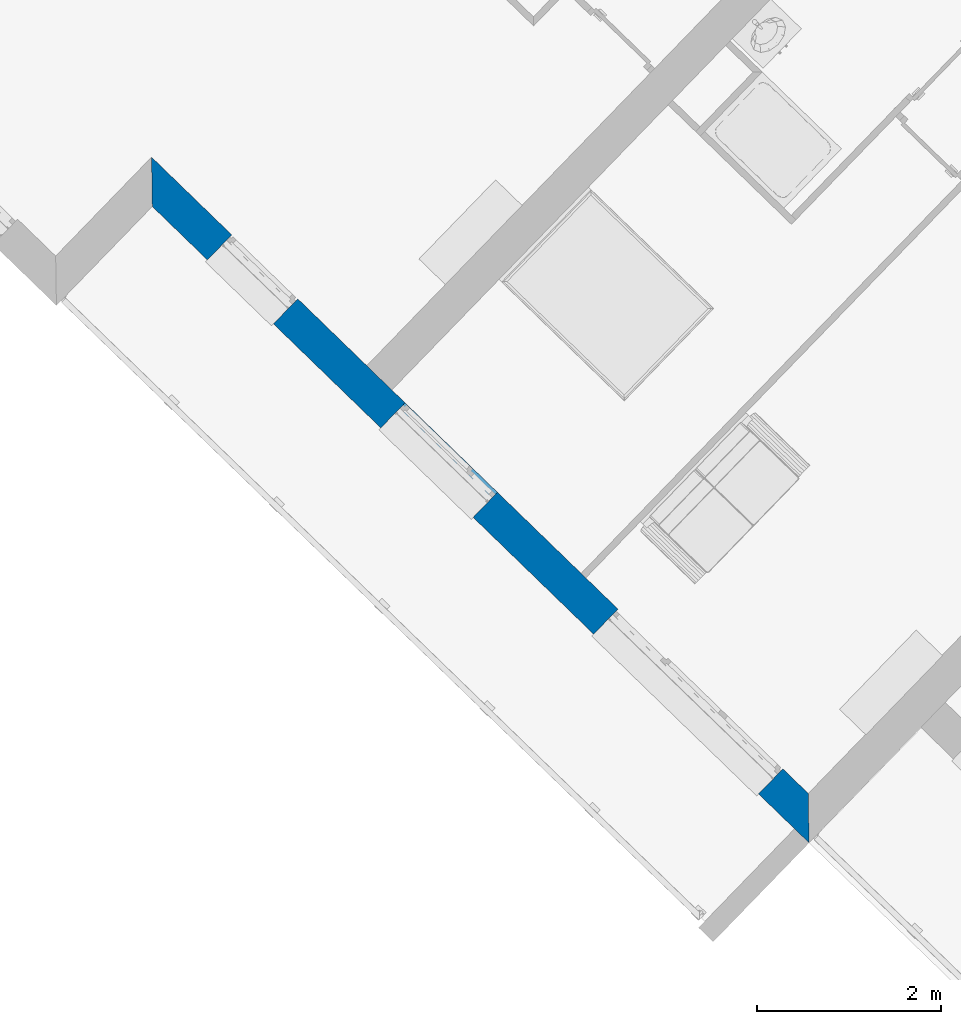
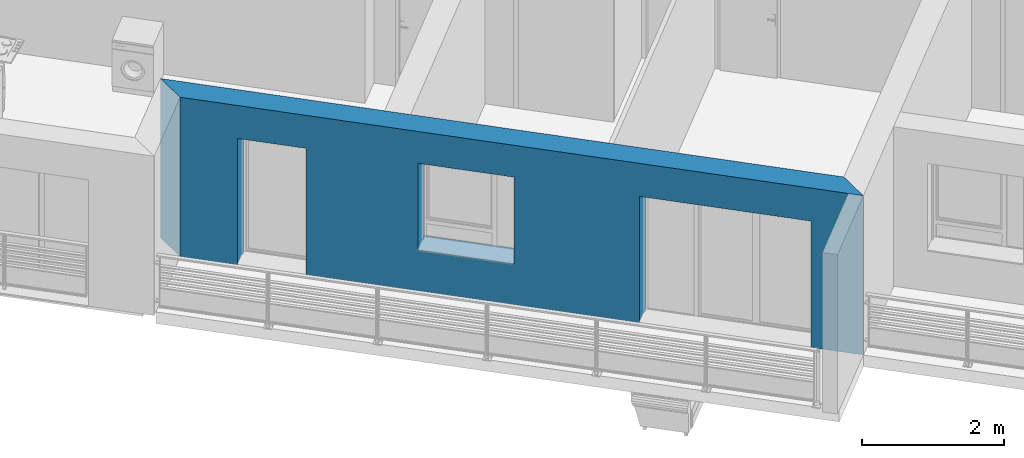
# One storey, part 8 of 121: 1 wall, 3 openings.
"""IFC2X3 building model written with IfcOpenShell, lengths in metres."""

from ifc_helpers import new_model, entity, si_unit, converted_unit, derived_unit, money_unit, direction, frame, origin_with_axes, place, context, subcontext, project, spatial, polyline, outline, extrude, faceted_brep, material, layer, layer_set, layer_usage, type_object, element, save


model = new_model("IFC2X3")

# Units and contexts
model_context = context("Model", 3, precision=1e-05, world=origin_with_axes(), true_north=direction((0.0, 1.0)))
body_context = subcontext(model_context, "Body", "Model", "MODEL_VIEW")
ifc_project = project(units=[si_unit("LENGTHUNIT", "METRE"), si_unit("AREAUNIT", "SQUARE_METRE"), si_unit("VOLUMEUNIT", "CUBIC_METRE"), converted_unit("PLANEANGLEUNIT", "DEGREE", entity("IfcPlaneAngleMeasure", 0.0174532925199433), si_unit("PLANEANGLEUNIT", "RADIAN"), dimensions=[0, 0, 0, 0, 0, 0, 0]), money_unit("CHF"), converted_unit("TIMEUNIT", "Year", entity("IfcTimeMeasure", 31557600.0), si_unit("TIMEUNIT", "SECOND"), dimensions=[0, 0, 1, 0, 0, 0, 0]), si_unit("MASSUNIT", "GRAM", prefix="KILO"), si_unit("THERMODYNAMICTEMPERATUREUNIT", "DEGREE_CELSIUS"), si_unit("LUMINOUSINTENSITYUNIT", "LUMEN"), si_unit("ENERGYUNIT", "JOULE", prefix="MEGA"), derived_unit("THERMALCONDUCTANCEUNIT", [(si_unit("POWERUNIT", "WATT"), 1), (si_unit("LENGTHUNIT", "METRE"), -1), (si_unit("THERMODYNAMICTEMPERATUREUNIT", "KELVIN"), -1)]), derived_unit("SPECIFICHEATCAPACITYUNIT", [(si_unit("ENERGYUNIT", "JOULE"), 1), (si_unit("MASSUNIT", "GRAM", prefix="KILO"), -1), (si_unit("THERMODYNAMICTEMPERATUREUNIT", "KELVIN"), -1)]), derived_unit("MASSDENSITYUNIT", [(si_unit("MASSUNIT", "GRAM", prefix="KILO"), 1), (si_unit("VOLUMEUNIT", "CUBIC_METRE"), -1)])], contexts=[model_context])

# Site, building, storey
site_placement = place(None, origin_with_axes())
site = spatial("IfcSite", under=ifc_project, at=site_placement, Name="Site", CompositionType="ELEMENT")
building_placement = place(site_placement, origin_with_axes())
building = spatial("IfcBuilding", under=site, at=building_placement, Name="Bâtiment", CompositionType="ELEMENT")
storey_placement = place(building_placement, frame((0.0, 0.0, 2.75), z_axis=(0.0, 0.0, 1.0), x_axis=(1.0, 0.0, 0.0)))
storey = spatial("IfcBuildingStorey", under=building, at=storey_placement, Name="Etage 1", CompositionType="ELEMENT", Elevation=2.75)

# Wall, openings
ifc_material_1 = material(Name="Parpaing 312445824")
ifc_layer_1 = layer(ifc_material_1, 0.22, ventilated="UNKNOWN")
ifc_material_2 = material(Name="Isolant styromousse 301821074")
ifc_layer_2 = layer(ifc_material_2, 0.16, ventilated="UNKNOWN")
ifc_layer_set = layer_set([ifc_layer_1, ifc_layer_2], Name="isol int 22+16 0836643197")
ifc_layer_usage = layer_usage(ifc_layer_set, "AXIS2", "NEGATIVE", 0.0)
wall_type = type_object("IfcWallType", Name="isol int 22+16 0836643197 380", PredefinedType="NOTDEFINED")
wall_placement = place(storey_placement, frame((9522.723727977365, -1071.439827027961, 57.7), z_axis=(0.0, 0.0, 1.0), x_axis=(-0.7181763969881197, 0.6958610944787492, 0.0)))
wall = element("IfcWallStandardCase", 1, at=wall_placement, inside=storey, type_object=wall_type, material=ifc_layer_usage, Name="Mur-115", context=body_context, shape_type="SweptSolid", body=[
    extrude(outline(polyline([(0.3799999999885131, -0.3800000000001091), (10.33768647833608, -0.3799999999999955), (9.957686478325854, 0.0), (0.0, 0.0), (0.3799999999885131, -0.3800000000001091)])), origin_with_axes(), (0.0, 0.0, 1.0), 2.75),
])
opening_1_placement = place(wall_placement, frame((5.7929670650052, 0.0, 0.7000000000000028), z_axis=(0.0, 0.0, 1.0), x_axis=(1.0, 0.0, 0.0)))
element("IfcOpeningElement", 2, at=opening_1_placement, cuts=wall, Name="Fen-045", context=body_context, shape_type="Brep", body=[
    faceted_brep([(0.6999999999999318, -0.4800000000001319, 1.5), (-0.6999999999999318, -0.4800000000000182, 1.5), (-0.7000000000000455, -5.357363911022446, 1.5), (0.6999999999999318, -5.357363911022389, 1.5), (0.6999999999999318, -0.4800000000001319, 1.700000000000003), (-0.6999999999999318, -0.4800000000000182, 1.700000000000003), (-0.6999999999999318, -0.3000000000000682, 1.5), (-0.6999999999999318, -0.3000000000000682, 0.0), (-0.7000000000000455, -5.357363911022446, 0.0), (0.6999999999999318, -5.357363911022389, 0.0), (0.6999999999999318, -0.3000000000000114, 1.5), (0.6999999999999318, -0.3000000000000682, 0.0), (0.6999999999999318, -0.2200000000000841, 1.5), (0.6999999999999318, -0.2200000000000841, 1.700000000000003), (-0.7000000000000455, -0.220000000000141, 1.700000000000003), (-0.7000000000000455, -0.220000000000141, 1.5), (-0.7000000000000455, 4.977363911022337, 1.5), (-0.7000000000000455, 4.977363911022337, 0.0), (0.6999999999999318, 4.97736391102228, 0.0), (0.6999999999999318, 4.97736391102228, 1.5)], [[[0, 1, 2, 3]], [[1, 0, 4, 5]], [[1, 6, 7, 8, 2]], [[2, 8, 9, 3]], [[10, 0, 3, 9, 11]], [[0, 10, 12, 13, 4]], [[14, 5, 4, 13]], [[6, 1, 5, 14, 15]], [[6, 15, 16, 17, 7]], [[7, 11, 9, 8]], [[12, 10, 11, 18, 19]], [[12, 15, 14, 13]], [[15, 12, 19, 16]], [[19, 18, 17, 16]], [[11, 7, 17, 18]]]),
])
opening_2_placement = place(wall_placement, frame((2.015639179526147, 0.0, 0.0), z_axis=(0.0, 0.0, 1.0), x_axis=(1.0, 0.0, 0.0)))
element("IfcOpeningElement", 3, at=opening_2_placement, cuts=wall, Name="Fen-053", context=body_context, shape_type="Brep", body=[
    faceted_brep([(1.249999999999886, -0.4799999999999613, 2.18), (-1.250000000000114, -0.4799999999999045, 2.18), (-1.25, -5.357363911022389, 2.18), (1.249999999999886, -5.357363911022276, 2.18), (1.249999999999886, -0.4799999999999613, 2.380000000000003), (-1.250000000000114, -0.4799999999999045, 2.380000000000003), (-1.25, -0.2999999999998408, 2.18), (-1.25, -0.2999999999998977, 0.0), (-1.25, -5.357363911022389, 0.0), (1.249999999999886, -5.357363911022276, 0.0), (1.249999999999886, -0.2999999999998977, 2.18), (1.249999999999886, -0.2999999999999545, 0.0), (1.249999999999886, -0.2199999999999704, 2.18), (1.249999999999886, -0.2199999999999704, 2.380000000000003), (-1.250000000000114, -0.2199999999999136, 2.380000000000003), (-1.250000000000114, -0.2199999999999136, 2.18), (-1.25, 4.977363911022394, 2.18), (-1.25, 4.977363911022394, 0.0), (1.249999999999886, 4.977363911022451, 0.0), (1.249999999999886, 4.977363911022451, 2.18)], [[[0, 1, 2, 3]], [[1, 0, 4, 5]], [[1, 6, 7, 8, 2]], [[2, 8, 9, 3]], [[10, 0, 3, 9, 11]], [[0, 10, 12, 13, 4]], [[4, 13, 14, 5]], [[6, 1, 5, 14, 15]], [[6, 15, 16, 17, 7]], [[7, 11, 9, 8]], [[12, 10, 11, 18, 19]], [[12, 15, 14, 13]], [[15, 12, 19, 16]], [[19, 18, 17, 16]], [[11, 7, 17, 18]]]),
])
opening_3_placement = place(wall_placement, frame((8.621077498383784, 0.0, 0.0), z_axis=(0.0, 0.0, 1.0), x_axis=(1.0, 0.0, 0.0)))
element("IfcOpeningElement", 4, at=opening_3_placement, cuts=wall, Name="Fen-052", context=body_context, shape_type="Brep", body=[
    faceted_brep([(0.5, -0.4800000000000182, 2.18), (-0.5, -0.4800000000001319, 2.18), (-0.5000000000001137, -5.357363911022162, 2.18), (0.5, -5.357363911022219, 2.18), (0.5, -0.4800000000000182, 2.380000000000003), (-0.5, -0.4800000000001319, 2.380000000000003), (-0.5, -0.3000000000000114, 2.18), (-0.5, -0.3000000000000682, 0.0), (-0.5000000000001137, -5.357363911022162, 0.0), (0.5, -5.357363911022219, 0.0), (0.5000000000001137, -0.2999999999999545, 2.18), (0.5000000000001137, -0.2999999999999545, 0.0), (0.5, -0.2200000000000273, 2.18), (0.5, -0.2200000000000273, 2.380000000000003), (-0.5, -0.220000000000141, 2.380000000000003), (-0.5, -0.220000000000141, 2.18), (-0.5, 4.977363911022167, 2.18), (-0.5, 4.977363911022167, 0.0), (0.5, 4.977363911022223, 0.0), (0.5, 4.977363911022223, 2.18)], [[[0, 1, 2, 3]], [[1, 0, 4, 5]], [[1, 6, 7, 8, 2]], [[2, 8, 9, 3]], [[10, 0, 3, 9, 11]], [[0, 10, 12, 13, 4]], [[4, 13, 14, 5]], [[6, 1, 5, 14, 15]], [[6, 15, 16, 17, 7]], [[7, 11, 9, 8]], [[12, 10, 11, 18, 19]], [[12, 15, 14, 13]], [[15, 12, 19, 16]], [[19, 18, 17, 16]], [[11, 7, 17, 18]]]),
])

save(model, "model.ifc")
